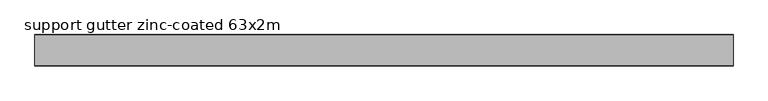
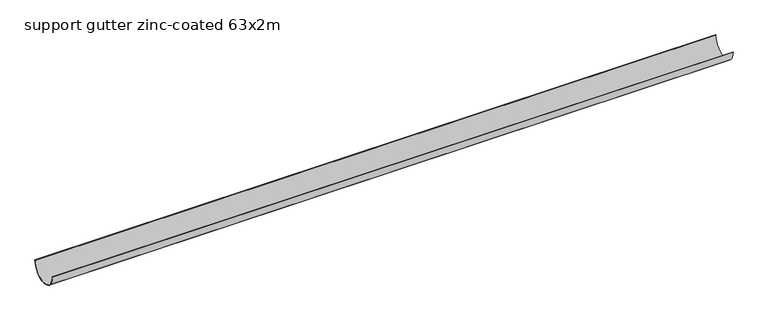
"""IFC4 building model written with IfcOpenShell, lengths in millimetres: valve geometry, PP-R_Support gutter zinc-coated : support gutter zinc-coated 63x2m."""

from ifc_helpers import new_model, si_unit, point, frame, frame_2d, origin, place, context, project, spatial, polyline, circle_curve, trimmed, segment, composite_curve, outline, extrude, source, transform, mapped, element, save


def support_gutter_zinc_coated_63x2m_031b4794(model_context):
    return source(origin(), model_context, "Body", "SweptSolid", [
        extrude(outline(composite_curve([segment(trimmed(circle_curve(frame_2d((0.0, -32.5)), 32.5), [point((-32.5, -32.5))], [point((32.5, -32.5))], True, "CARTESIAN"), True, "CONTINUOUS"), segment(polyline([(32.5, -32.5), (33.5, -32.5)]), True, "CONTINUOUS"), segment(trimmed(circle_curve(frame_2d((0.0, -32.5)), 33.5), [point((33.5, -32.5))], [point((-33.5, -32.5))], False, "CARTESIAN"), True, "CONTINUOUS"), segment(polyline([(-33.5, -32.5), (-32.5, -32.5)]), True, "CONTINUOUS")], self_intersect=False)), frame((9.5156627, 0.0, 0.0), z_axis=(1.0, 0.0, 0.0), x_axis=(0.0, 1.0, 0.0)), (0.0, 0.0, 1.0), 1500.0),
    ])


if __name__ == "__main__":
    model = new_model("IFC4")
    model_context = context("Model", 3, world=origin())
    ifc_project = project(units=[si_unit("LENGTHUNIT", "METRE", prefix="MILLI")], contexts=[model_context])
    site = spatial("IfcSite", under=ifc_project)
    building = spatial("IfcBuilding", under=site)
    placement = place(None, origin())
    support_gutter_zinc_coated_63x2m_shape = support_gutter_zinc_coated_63x2m_031b4794(model_context)
    element("IfcValve", 1, ObjectType="PP-R_Support gutter zinc-coated : support gutter zinc-coated 63x2m", at=placement, inside=building, context=model_context, shape_type="MappedRepresentation", body=[
        mapped(support_gutter_zinc_coated_63x2m_shape, transform((0.0, 0.0, 0.0), x_axis=(1.0, 0.0, 0.0), y_axis=(0.0, 1.0, 0.0), z_axis=(0.0, 0.0, 1.0))),
    ])
    save(model, "model.ifc")
